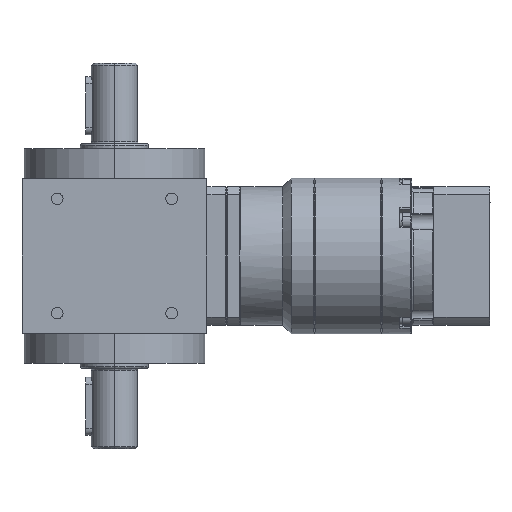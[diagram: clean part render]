
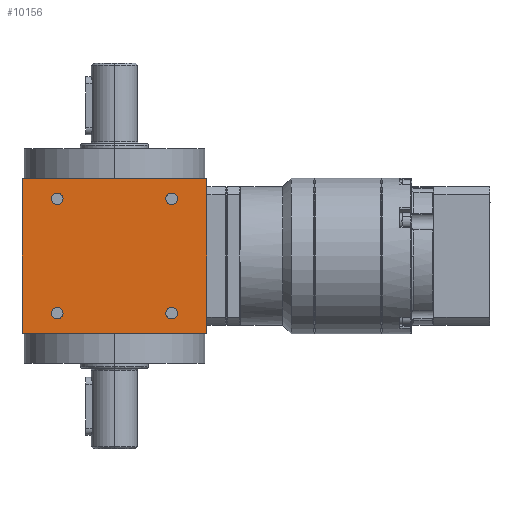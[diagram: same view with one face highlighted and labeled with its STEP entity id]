
A CAD part, left-side view. The second image highlights one B-rep face of the part: STEP entity #10156.
In plain terms, the highlighted planar face has unit normal (-1, 0, 0).
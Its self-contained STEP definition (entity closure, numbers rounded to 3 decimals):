
#356 = CARTESIAN_POINT ( 'NONE',  ( -40., -40., -33.5 ) ) ;
#1362 = DIRECTION ( 'NONE',  ( 1., 0., 0. ) ) ;
#1469 = AXIS2_PLACEMENT_3D ( 'NONE', #5816, #28728, #26062 ) ;
#1611 = AXIS2_PLACEMENT_3D ( 'NONE', #6091, #18335, #31167 ) ;
#1787 = EDGE_CURVE ( 'NONE', #17946, #22639, #10727, .T. ) ;
#2403 = EDGE_CURVE ( 'NONE', #21130, #2850, #9773, .T. ) ;
#2850 = VERTEX_POINT ( 'NONE', #8419 ) ;
#3025 = CARTESIAN_POINT ( 'NONE',  ( -40., -22.25, 24.75 ) ) ;
#3031 = ORIENTED_EDGE ( 'NONE', *, *, #13831, .T. ) ;
#3180 = VERTEX_POINT ( 'NONE', #12864 ) ;
#3256 = DIRECTION ( 'NONE',  ( 1., 0., 0. ) ) ;
#3373 = CARTESIAN_POINT ( 'NONE',  ( -40., -40., 33.5 ) ) ;
#3535 = CARTESIAN_POINT ( 'NONE',  ( -40., 27.25, -24.75 ) ) ;
#3872 = VERTEX_POINT ( 'NONE', #29501 ) ;
#3916 = ORIENTED_EDGE ( 'NONE', *, *, #18305, .T. ) ;
#4431 = DIRECTION ( 'NONE',  ( 0., -1., 0. ) ) ;
#4686 = FACE_BOUND ( 'NONE', #18288, .T. ) ;
#4826 = DIRECTION ( 'NONE',  ( 0., -1., 0. ) ) ;
#4971 = AXIS2_PLACEMENT_3D ( 'NONE', #25356, #24876, #4826 ) ;
#5551 = DIRECTION ( 'NONE',  ( 0., 0., 1. ) ) ;
#5712 = LINE ( 'NONE', #28630, #15384 ) ;
#5816 = CARTESIAN_POINT ( 'NONE',  ( -40., 24.75, 24.75 ) ) ;
#6091 = CARTESIAN_POINT ( 'NONE',  ( -40., -24.75, 24.75 ) ) ;
#6343 = CARTESIAN_POINT ( 'NONE',  ( -40., 24.75, -24.75 ) ) ;
#6379 = CARTESIAN_POINT ( 'NONE',  ( -40., 0., 33.5 ) ) ;
#6704 = ORIENTED_EDGE ( 'NONE', *, *, #1787, .F. ) ;
#8419 = CARTESIAN_POINT ( 'NONE',  ( -40., -27.25, -24.75 ) ) ;
#8548 = DIRECTION ( 'NONE',  ( 0., -1., 0. ) ) ;
#8748 = DIRECTION ( 'NONE',  ( 0., -1., 0. ) ) ;
#9326 = AXIS2_PLACEMENT_3D ( 'NONE', #24306, #16827, #8748 ) ;
#9518 = FACE_OUTER_BOUND ( 'NONE', #26472, .T. ) ;
#9682 = FACE_BOUND ( 'NONE', #10934, .T. ) ;
#9773 = CIRCLE ( 'NONE', #4971, 2.5 ) ;
#10123 = ORIENTED_EDGE ( 'NONE', *, *, #32083, .T. ) ;
#10156 = ADVANCED_FACE ( 'NONE', ( #9518, #19590, #9682, #19759, #4686 ), #24083, .T. ) ;
#10389 = VERTEX_POINT ( 'NONE', #18186 ) ;
#10727 = LINE ( 'NONE', #6379, #10776 ) ;
#10776 = VECTOR ( 'NONE', #8548, 1000. ) ;
#10934 = EDGE_LOOP ( 'NONE', ( #25632, #26885 ) ) ;
#11187 = DIRECTION ( 'NONE',  ( 0., -1., 0. ) ) ;
#12225 = CIRCLE ( 'NONE', #1611, 2.5 ) ;
#12864 = CARTESIAN_POINT ( 'NONE',  ( -40., 27.25, 24.75 ) ) ;
#12898 = ORIENTED_EDGE ( 'NONE', *, *, #23233, .T. ) ;
#12927 = DIRECTION ( 'NONE',  ( 1., 0., 0. ) ) ;
#13100 = CIRCLE ( 'NONE', #27348, 2.5 ) ;
#13831 = EDGE_CURVE ( 'NONE', #26192, #22639, #17470, .T. ) ;
#14408 = ORIENTED_EDGE ( 'NONE', *, *, #2403, .T. ) ;
#14561 = VERTEX_POINT ( 'NONE', #3535 ) ;
#14643 = CARTESIAN_POINT ( 'NONE',  ( -40., 40., -33.5 ) ) ;
#15384 = VECTOR ( 'NONE', #5551, 1000. ) ;
#15699 = CIRCLE ( 'NONE', #19926, 2.5 ) ;
#15893 = CARTESIAN_POINT ( 'NONE',  ( -40., 22.25, -24.75 ) ) ;
#16181 = EDGE_CURVE ( 'NONE', #32865, #26192, #31294, .T. ) ;
#16548 = VERTEX_POINT ( 'NONE', #15893 ) ;
#16714 = CIRCLE ( 'NONE', #9326, 2.5 ) ;
#16827 = DIRECTION ( 'NONE',  ( 1., 0., 0. ) ) ;
#16984 = ORIENTED_EDGE ( 'NONE', *, *, #22546, .T. ) ;
#17161 = VECTOR ( 'NONE', #28064, 1000. ) ;
#17470 = LINE ( 'NONE', #356, #17161 ) ;
#17706 = ORIENTED_EDGE ( 'NONE', *, *, #16181, .T. ) ;
#17946 = VERTEX_POINT ( 'NONE', #25912 ) ;
#18186 = CARTESIAN_POINT ( 'NONE',  ( -40., 22.25, 24.75 ) ) ;
#18288 = EDGE_LOOP ( 'NONE', ( #12898, #14408 ) ) ;
#18305 = EDGE_CURVE ( 'NONE', #3872, #28693, #29193, .T. ) ;
#18335 = DIRECTION ( 'NONE',  ( 1., 0., 0. ) ) ;
#18489 = DIRECTION ( 'NONE',  ( 0., -1., 0. ) ) ;
#18637 = CARTESIAN_POINT ( 'NONE',  ( -40., 0., -33.5 ) ) ;
#19431 = CIRCLE ( 'NONE', #1469, 2.5 ) ;
#19590 = FACE_BOUND ( 'NONE', #21511, .T. ) ;
#19701 = EDGE_LOOP ( 'NONE', ( #3916, #10123 ) ) ;
#19759 = FACE_BOUND ( 'NONE', #19701, .T. ) ;
#19926 = AXIS2_PLACEMENT_3D ( 'NONE', #20461, #3256, #18489 ) ;
#20461 = CARTESIAN_POINT ( 'NONE',  ( -40., -24.75, -24.75 ) ) ;
#20973 = AXIS2_PLACEMENT_3D ( 'NONE', #30310, #29980, #4431 ) ;
#21130 = VERTEX_POINT ( 'NONE', #32518 ) ;
#21511 = EDGE_LOOP ( 'NONE', ( #16984, #28356 ) ) ;
#21583 = CARTESIAN_POINT ( 'NONE',  ( -40., 40., -33.5 ) ) ;
#21932 = CARTESIAN_POINT ( 'NONE',  ( -40., -40., -33.5 ) ) ;
#22546 = EDGE_CURVE ( 'NONE', #16548, #14561, #13100, .T. ) ;
#22639 = VERTEX_POINT ( 'NONE', #3373 ) ;
#22861 = CARTESIAN_POINT ( 'NONE',  ( -40., -24.75, 24.75 ) ) ;
#23021 = DIRECTION ( 'NONE',  ( 0., -1., 0. ) ) ;
#23233 = EDGE_CURVE ( 'NONE', #2850, #21130, #15699, .T. ) ;
#23651 = VECTOR ( 'NONE', #30791, 1000. ) ;
#23846 = AXIS2_PLACEMENT_3D ( 'NONE', #22861, #12927, #23021 ) ;
#23979 = EDGE_CURVE ( 'NONE', #10389, #3180, #19431, .T. ) ;
#24083 = PLANE ( 'NONE',  #28118 ) ;
#24306 = CARTESIAN_POINT ( 'NONE',  ( -40., 24.75, -24.75 ) ) ;
#24876 = DIRECTION ( 'NONE',  ( 1., 0., 0. ) ) ;
#24905 = DIRECTION ( 'NONE',  ( -1., 0., 0. ) ) ;
#25068 = DIRECTION ( 'NONE',  ( 0., -1., 0. ) ) ;
#25356 = CARTESIAN_POINT ( 'NONE',  ( -40., -24.75, -24.75 ) ) ;
#25632 = ORIENTED_EDGE ( 'NONE', *, *, #23979, .T. ) ;
#25912 = CARTESIAN_POINT ( 'NONE',  ( -40., 40., 33.5 ) ) ;
#26062 = DIRECTION ( 'NONE',  ( 0., -1., 0. ) ) ;
#26192 = VERTEX_POINT ( 'NONE', #21932 ) ;
#26472 = EDGE_LOOP ( 'NONE', ( #30871, #17706, #3031, #6704 ) ) ;
#26885 = ORIENTED_EDGE ( 'NONE', *, *, #27035, .T. ) ;
#26901 = EDGE_CURVE ( 'NONE', #14561, #16548, #16714, .T. ) ;
#27035 = EDGE_CURVE ( 'NONE', #3180, #10389, #31617, .T. ) ;
#27348 = AXIS2_PLACEMENT_3D ( 'NONE', #6343, #1362, #11187 ) ;
#28064 = DIRECTION ( 'NONE',  ( 0., 0., 1. ) ) ;
#28118 = AXIS2_PLACEMENT_3D ( 'NONE', #21583, #24905, #25068 ) ;
#28356 = ORIENTED_EDGE ( 'NONE', *, *, #26901, .T. ) ;
#28630 = CARTESIAN_POINT ( 'NONE',  ( -40., 40., -33.5 ) ) ;
#28693 = VERTEX_POINT ( 'NONE', #3025 ) ;
#28728 = DIRECTION ( 'NONE',  ( 1., 0., 0. ) ) ;
#29193 = CIRCLE ( 'NONE', #23846, 2.5 ) ;
#29501 = CARTESIAN_POINT ( 'NONE',  ( -40., -27.25, 24.75 ) ) ;
#29980 = DIRECTION ( 'NONE',  ( 1., 0., 0. ) ) ;
#30310 = CARTESIAN_POINT ( 'NONE',  ( -40., 24.75, 24.75 ) ) ;
#30791 = DIRECTION ( 'NONE',  ( 0., -1., 0. ) ) ;
#30871 = ORIENTED_EDGE ( 'NONE', *, *, #32571, .F. ) ;
#31167 = DIRECTION ( 'NONE',  ( 0., -1., 0. ) ) ;
#31294 = LINE ( 'NONE', #18637, #23651 ) ;
#31617 = CIRCLE ( 'NONE', #20973, 2.5 ) ;
#32083 = EDGE_CURVE ( 'NONE', #28693, #3872, #12225, .T. ) ;
#32518 = CARTESIAN_POINT ( 'NONE',  ( -40., -22.25, -24.75 ) ) ;
#32571 = EDGE_CURVE ( 'NONE', #32865, #17946, #5712, .T. ) ;
#32865 = VERTEX_POINT ( 'NONE', #14643 ) ;
